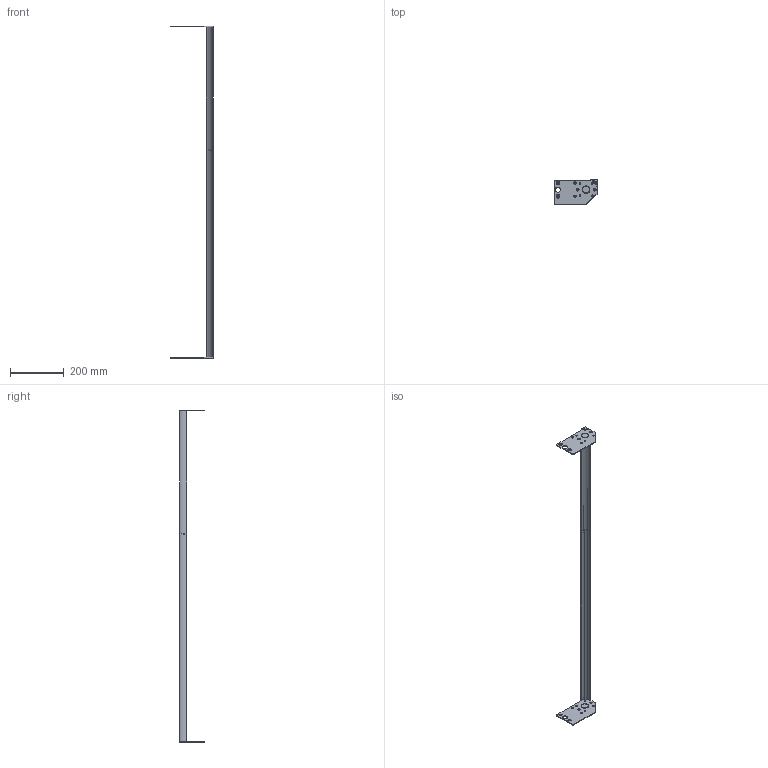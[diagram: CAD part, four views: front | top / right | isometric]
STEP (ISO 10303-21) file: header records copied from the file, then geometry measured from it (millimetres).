
FILE_DESCRIPTION((''),'2;1');
FILE_NAME('27M3300-30_ASM','2017-07-31T',('james.horst'),(''),'PRO/ENGINEER BY PARAMETRIC TECHNOLOGY CORPORATION, 2012420','PRO/ENGINEER BY PARAMETRIC TECHNOLOGY CORPORATION, 2012420','');
FILE_SCHEMA(('CONFIG_CONTROL_DESIGN'));
Length unit declared in the file: inch
Products named in the file (7): 350539-30; EXT; 350540; 350541; 930410M; 27M3300-10_ASM_1_ASM; 27M3300-30_ASM
Assembly tree (9 placements, depth 3):
  27M3300-30_ASM
    27M3300-10_ASM_1_ASM
      350539-30
      EXT
      350540
      350541
      930410M  x4
Bounding box: 157.96 x 92.74 x 1231.54 mm (x, y, z)
Volume: 423700.5 mm3; surface area: 192456.9 mm2
Topology: 8 solids, 12 shells, 218 faces, 588 edges, 390 vertices
Faces by surface type: cylinder 104, plane 74, cone 40
Entity records: 6001 total; most frequent: DIRECTION 1086, CARTESIAN_POINT 1079, ORIENTED_EDGE 932, EDGE_CURVE 474, AXIS2_PLACEMENT_3D 433, VERTEX_POINT 318, CIRCLE 240, EDGE_LOOP 236
